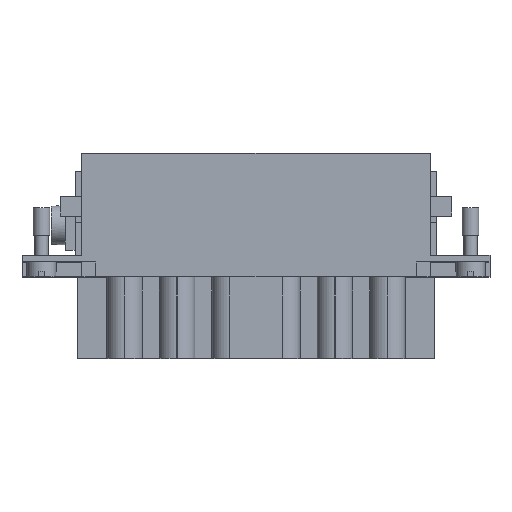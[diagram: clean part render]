
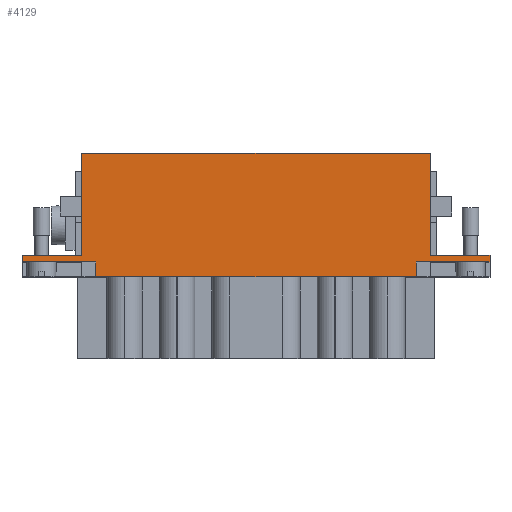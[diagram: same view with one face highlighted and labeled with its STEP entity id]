
A CAD part, top view. The second image highlights one B-rep face of the part: STEP entity #4129.
In plain terms, the highlighted planar face has unit normal (0, 0, 1).
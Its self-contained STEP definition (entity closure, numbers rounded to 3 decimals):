
#138 = VERTEX_POINT ( 'NONE', #2134 ) ;
#207 = VERTEX_POINT ( 'NONE', #8029 ) ;
#744 = CARTESIAN_POINT ( 'NONE',  ( 28.95, 0., 17. ) ) ;
#1495 = VECTOR ( 'NONE', #4881, 1000. ) ;
#1788 = EDGE_CURVE ( 'NONE', #3567, #12683, #12115, .T. ) ;
#2058 = FACE_OUTER_BOUND ( 'NONE', #13980, .T. ) ;
#2134 = CARTESIAN_POINT ( 'NONE',  ( 28.95, 2.7, 17. ) ) ;
#2246 = ORIENTED_EDGE ( 'NONE', *, *, #1788, .F. ) ;
#2250 = DIRECTION ( 'NONE',  ( 0., 1., 0. ) ) ;
#3028 = CARTESIAN_POINT ( 'NONE',  ( -29.25, -82.363, 17. ) ) ;
#3086 = LINE ( 'NONE', #16467, #7105 ) ;
#3308 = EDGE_CURVE ( 'NONE', #207, #11489, #16620, .T. ) ;
#3429 = CARTESIAN_POINT ( 'NONE',  ( -28.95, 0., 17. ) ) ;
#3567 = VERTEX_POINT ( 'NONE', #3429 ) ;
#3697 = LINE ( 'NONE', #12531, #17247 ) ;
#4129 = ADVANCED_FACE ( 'NONE', ( #2058 ), #18389, .F. ) ;
#4353 = CARTESIAN_POINT ( 'NONE',  ( 31.45, 22.3, 17. ) ) ;
#4383 = CARTESIAN_POINT ( 'NONE',  ( 31.45, 3.9, 17. ) ) ;
#4405 = VECTOR ( 'NONE', #2250, 1000. ) ;
#4502 = VECTOR ( 'NONE', #8906, 1000. ) ;
#4522 = DIRECTION ( 'NONE',  ( 1., 0., 0. ) ) ;
#4881 = DIRECTION ( 'NONE',  ( -1., 0., 0. ) ) ;
#4959 = LINE ( 'NONE', #19518, #11573 ) ;
#4988 = LINE ( 'NONE', #14687, #13745 ) ;
#5604 = CARTESIAN_POINT ( 'NONE',  ( 31.45, -34.071, 17. ) ) ;
#5620 = ORIENTED_EDGE ( 'NONE', *, *, #16981, .T. ) ;
#5691 = CARTESIAN_POINT ( 'NONE',  ( 42.25, 2.7, 17. ) ) ;
#5769 = CARTESIAN_POINT ( 'NONE',  ( -31.45, 3.9, 17. ) ) ;
#5818 = EDGE_CURVE ( 'NONE', #7840, #14301, #14343, .T. ) ;
#5893 = DIRECTION ( 'NONE',  ( -1., 0., 0. ) ) ;
#6067 = CARTESIAN_POINT ( 'NONE',  ( -42.25, 3.9, 17. ) ) ;
#6219 = VERTEX_POINT ( 'NONE', #4383 ) ;
#6303 = ORIENTED_EDGE ( 'NONE', *, *, #5818, .F. ) ;
#6352 = DIRECTION ( 'NONE',  ( -1., 0., 0. ) ) ;
#6628 = VERTEX_POINT ( 'NONE', #6067 ) ;
#6853 = DIRECTION ( 'NONE',  ( 0., 1., 0. ) ) ;
#7053 = VERTEX_POINT ( 'NONE', #13059 ) ;
#7105 = VECTOR ( 'NONE', #5893, 1000. ) ;
#7363 = CARTESIAN_POINT ( 'NONE',  ( 29.25, 0., 17. ) ) ;
#7574 = EDGE_CURVE ( 'NONE', #12683, #7053, #16727, .T. ) ;
#7840 = VERTEX_POINT ( 'NONE', #5769 ) ;
#7904 = EDGE_CURVE ( 'NONE', #18136, #3567, #10495, .T. ) ;
#8029 = CARTESIAN_POINT ( 'NONE',  ( 42.25, 2.7, 17. ) ) ;
#8079 = VECTOR ( 'NONE', #6853, 1000. ) ;
#8132 = CARTESIAN_POINT ( 'NONE',  ( -31.45, 22.3, 17. ) ) ;
#8269 = CARTESIAN_POINT ( 'NONE',  ( -31.45, -34.071, 17. ) ) ;
#8422 = CARTESIAN_POINT ( 'NONE',  ( -28.95, -14.7, 17. ) ) ;
#8724 = AXIS2_PLACEMENT_3D ( 'NONE', #3028, #13544, #16718 ) ;
#8760 = LINE ( 'NONE', #12111, #17349 ) ;
#8906 = DIRECTION ( 'NONE',  ( 0., 1., 0. ) ) ;
#9127 = DIRECTION ( 'NONE',  ( -1., 0., 0. ) ) ;
#9797 = EDGE_CURVE ( 'NONE', #7840, #6628, #4988, .T. ) ;
#9924 = ORIENTED_EDGE ( 'NONE', *, *, #18511, .T. ) ;
#10367 = DIRECTION ( 'NONE',  ( 1., 0., 0. ) ) ;
#10495 = LINE ( 'NONE', #7363, #18622 ) ;
#11489 = VERTEX_POINT ( 'NONE', #16116 ) ;
#11573 = VECTOR ( 'NONE', #10367, 1000. ) ;
#12064 = ORIENTED_EDGE ( 'NONE', *, *, #15096, .T. ) ;
#12111 = CARTESIAN_POINT ( 'NONE',  ( 29.25, 2.7, 17. ) ) ;
#12115 = LINE ( 'NONE', #8422, #8079 ) ;
#12144 = ORIENTED_EDGE ( 'NONE', *, *, #19187, .F. ) ;
#12245 = ORIENTED_EDGE ( 'NONE', *, *, #3308, .T. ) ;
#12531 = CARTESIAN_POINT ( 'NONE',  ( 28.95, -14.7, 17. ) ) ;
#12683 = VERTEX_POINT ( 'NONE', #17378 ) ;
#12748 = LINE ( 'NONE', #5604, #18986 ) ;
#13059 = CARTESIAN_POINT ( 'NONE',  ( -42.25, 2.7, 17. ) ) ;
#13457 = ORIENTED_EDGE ( 'NONE', *, *, #7904, .F. ) ;
#13544 = DIRECTION ( 'NONE',  ( 0., 0., -1. ) ) ;
#13745 = VECTOR ( 'NONE', #6352, 1000. ) ;
#13980 = EDGE_LOOP ( 'NONE', ( #2246, #13457, #9924, #12064, #12245, #16944, #5620, #18099, #6303, #19356, #12144, #15198 ) ) ;
#14301 = VERTEX_POINT ( 'NONE', #8132 ) ;
#14343 = LINE ( 'NONE', #8269, #4405 ) ;
#14687 = CARTESIAN_POINT ( 'NONE',  ( -29.25, 3.9, 17. ) ) ;
#15096 = EDGE_CURVE ( 'NONE', #138, #207, #8760, .T. ) ;
#15198 = ORIENTED_EDGE ( 'NONE', *, *, #7574, .F. ) ;
#15564 = DIRECTION ( 'NONE',  ( 0., 1., 0. ) ) ;
#16116 = CARTESIAN_POINT ( 'NONE',  ( 42.25, 3.9, 17. ) ) ;
#16379 = DIRECTION ( 'NONE',  ( 0., 1., 0. ) ) ;
#16467 = CARTESIAN_POINT ( 'NONE',  ( -29.25, 22.3, 17. ) ) ;
#16620 = LINE ( 'NONE', #5691, #4502 ) ;
#16718 = DIRECTION ( 'NONE',  ( 0., 1., 0. ) ) ;
#16727 = LINE ( 'NONE', #18705, #1495 ) ;
#16944 = ORIENTED_EDGE ( 'NONE', *, *, #17014, .F. ) ;
#16963 = VERTEX_POINT ( 'NONE', #4353 ) ;
#16981 = EDGE_CURVE ( 'NONE', #6219, #16963, #12748, .T. ) ;
#17014 = EDGE_CURVE ( 'NONE', #6219, #11489, #4959, .T. ) ;
#17247 = VECTOR ( 'NONE', #15564, 1000. ) ;
#17329 = VECTOR ( 'NONE', #19078, 1000. ) ;
#17349 = VECTOR ( 'NONE', #4522, 1000. ) ;
#17378 = CARTESIAN_POINT ( 'NONE',  ( -28.95, 2.7, 17. ) ) ;
#17466 = CARTESIAN_POINT ( 'NONE',  ( -42.25, 2.7, 17. ) ) ;
#18099 = ORIENTED_EDGE ( 'NONE', *, *, #19353, .T. ) ;
#18136 = VERTEX_POINT ( 'NONE', #744 ) ;
#18389 = PLANE ( 'NONE',  #8724 ) ;
#18511 = EDGE_CURVE ( 'NONE', #18136, #138, #3697, .T. ) ;
#18622 = VECTOR ( 'NONE', #9127, 1000. ) ;
#18705 = CARTESIAN_POINT ( 'NONE',  ( -29.25, 2.7, 17. ) ) ;
#18986 = VECTOR ( 'NONE', #16379, 1000. ) ;
#19037 = LINE ( 'NONE', #17466, #17329 ) ;
#19078 = DIRECTION ( 'NONE',  ( 0., 1., 0. ) ) ;
#19187 = EDGE_CURVE ( 'NONE', #7053, #6628, #19037, .T. ) ;
#19353 = EDGE_CURVE ( 'NONE', #16963, #14301, #3086, .T. ) ;
#19356 = ORIENTED_EDGE ( 'NONE', *, *, #9797, .T. ) ;
#19518 = CARTESIAN_POINT ( 'NONE',  ( 29.25, 3.9, 17. ) ) ;
